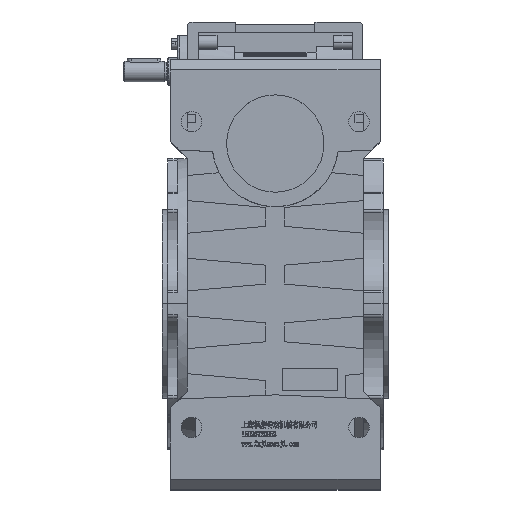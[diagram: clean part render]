
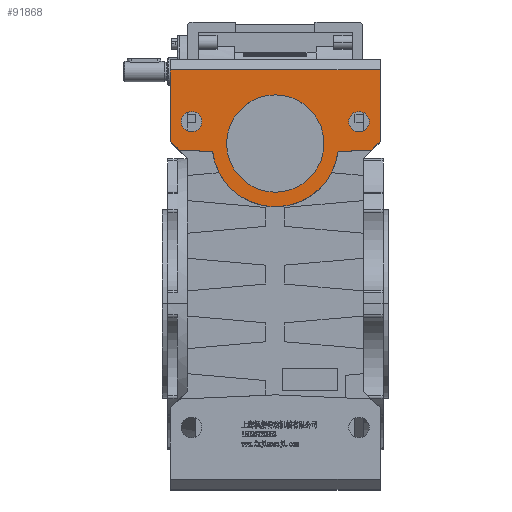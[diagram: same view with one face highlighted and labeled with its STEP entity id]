
A CAD part, top view. The second image highlights one B-rep face of the part: STEP entity #91868.
In plain terms, the highlighted planar face has unit normal (0, 0, 1).
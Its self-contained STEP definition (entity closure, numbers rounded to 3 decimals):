
#142 = EDGE_CURVE ( 'NONE', #106573, #7380, #43830, .T. ) ;
#746 = ORIENTED_EDGE ( 'NONE', *, *, #113656, .F. ) ;
#1903 = CARTESIAN_POINT ( 'NONE',  ( 72., 105.744, 127.5 ) ) ;
#2095 = CARTESIAN_POINT ( 'NONE',  ( 50.5, 125., 127.5 ) ) ;
#2280 = AXIS2_PLACEMENT_3D ( 'NONE', #114451, #18148, #43426 ) ;
#2544 = CARTESIAN_POINT ( 'NONE',  ( 65.977, 105.481, 127.5 ) ) ;
#3377 = CARTESIAN_POINT ( 'NONE',  ( -72., 160.5, 127.5 ) ) ;
#5695 = DIRECTION ( 'NONE',  ( 1., 0., 0. ) ) ;
#5966 = LINE ( 'NONE', #80326, #52025 ) ;
#6525 = VERTEX_POINT ( 'NONE', #21144 ) ;
#7380 = VERTEX_POINT ( 'NONE', #9173 ) ;
#9173 = CARTESIAN_POINT ( 'NONE',  ( 33.43, 110., 127.5 ) ) ;
#9327 = CIRCLE ( 'NONE', #47019, 33.43 ) ;
#10497 = VERTEX_POINT ( 'NONE', #3377 ) ;
#12062 = DIRECTION ( 'NONE',  ( 0., 0., 1. ) ) ;
#12653 = CARTESIAN_POINT ( 'NONE',  ( 0., 110., 127.5 ) ) ;
#12812 = DIRECTION ( 'NONE',  ( 1., 0., 0. ) ) ;
#13323 = VECTOR ( 'NONE', #88016, 1000. ) ;
#13722 = AXIS2_PLACEMENT_3D ( 'NONE', #92779, #12062, #12812 ) ;
#16062 = ORIENTED_EDGE ( 'NONE', *, *, #16521, .F. ) ;
#16521 = EDGE_CURVE ( 'NONE', #109951, #104701, #59376, .T. ) ;
#17574 = EDGE_LOOP ( 'NONE', ( #105149, #47129, #57345, #112567, #51677, #27553, #65180, #16062 ) ) ;
#18148 = DIRECTION ( 'NONE',  ( 0., 0., 1. ) ) ;
#19769 = FACE_BOUND ( 'NONE', #98621, .T. ) ;
#21144 = CARTESIAN_POINT ( 'NONE',  ( -72., 111.504, 127.5 ) ) ;
#22433 = DIRECTION ( 'NONE',  ( 1., 0., 0. ) ) ;
#22509 = DIRECTION ( 'NONE',  ( 0., 0., 1. ) ) ;
#24147 = DIRECTION ( 'NONE',  ( 0., -1., 0. ) ) ;
#27464 = EDGE_CURVE ( 'NONE', #31902, #39176, #48787, .T. ) ;
#27553 = ORIENTED_EDGE ( 'NONE', *, *, #115612, .T. ) ;
#29080 = CARTESIAN_POINT ( 'NONE',  ( 0., 110., 127.5 ) ) ;
#30376 = EDGE_CURVE ( 'NONE', #70948, #10497, #55168, .T. ) ;
#31016 = VERTEX_POINT ( 'NONE', #73050 ) ;
#31714 = CARTESIAN_POINT ( 'NONE',  ( 43.078, 104.481, 127.5 ) ) ;
#31902 = VERTEX_POINT ( 'NONE', #2544 ) ;
#33493 = AXIS2_PLACEMENT_3D ( 'NONE', #12653, #75081, #22433 ) ;
#34563 = VECTOR ( 'NONE', #24147, 1000. ) ;
#36147 = ORIENTED_EDGE ( 'NONE', *, *, #92918, .F. ) ;
#37972 = DIRECTION ( 'NONE',  ( 1., 0., 0. ) ) ;
#38675 = CARTESIAN_POINT ( 'NONE',  ( -43.078, 104.481, 127.5 ) ) ;
#39176 = VERTEX_POINT ( 'NONE', #31714 ) ;
#39629 = CARTESIAN_POINT ( 'NONE',  ( -65.977, 105.481, 127.5 ) ) ;
#41986 = DIRECTION ( 'NONE',  ( 0., 0., 1. ) ) ;
#43393 = EDGE_CURVE ( 'NONE', #109951, #39176, #45428, .T. ) ;
#43426 = DIRECTION ( 'NONE',  ( 1., 0., 0. ) ) ;
#43830 = CIRCLE ( 'NONE', #13722, 33.43 ) ;
#44765 = AXIS2_PLACEMENT_3D ( 'NONE', #62562, #107808, #107427 ) ;
#45428 = CIRCLE ( 'NONE', #33493, 43.43 ) ;
#46339 = EDGE_CURVE ( 'NONE', #104701, #6525, #69957, .T. ) ;
#46976 = CIRCLE ( 'NONE', #67378, 7. ) ;
#47002 = VECTOR ( 'NONE', #60164, 1000. ) ;
#47005 = EDGE_LOOP ( 'NONE', ( #36147, #58451 ) ) ;
#47019 = AXIS2_PLACEMENT_3D ( 'NONE', #29080, #82855, #37972 ) ;
#47129 = ORIENTED_EDGE ( 'NONE', *, *, #27464, .F. ) ;
#48787 = LINE ( 'NONE', #1903, #61314 ) ;
#49407 = VECTOR ( 'NONE', #58967, 1000. ) ;
#49789 = DIRECTION ( 'NONE',  ( 1., 0., 0. ) ) ;
#50163 = ORIENTED_EDGE ( 'NONE', *, *, #91651, .F. ) ;
#50549 = AXIS2_PLACEMENT_3D ( 'NONE', #111830, #41986, #49789 ) ;
#51677 = ORIENTED_EDGE ( 'NONE', *, *, #30376, .T. ) ;
#52025 = VECTOR ( 'NONE', #107231, 1000. ) ;
#54996 = CARTESIAN_POINT ( 'NONE',  ( 72., 160.5, 127.5 ) ) ;
#55081 = DIRECTION ( 'NONE',  ( -0.707, 0.707, 0. ) ) ;
#55168 = LINE ( 'NONE', #70907, #13323 ) ;
#57345 = ORIENTED_EDGE ( 'NONE', *, *, #84122, .F. ) ;
#57945 = CARTESIAN_POINT ( 'NONE',  ( 72., 111.504, 127.5 ) ) ;
#58269 = CIRCLE ( 'NONE', #50549, 7. ) ;
#58451 = ORIENTED_EDGE ( 'NONE', *, *, #79409, .F. ) ;
#58967 = DIRECTION ( 'NONE',  ( -0.707, -0.707, 0. ) ) ;
#59376 = LINE ( 'NONE', #96059, #47002 ) ;
#60164 = DIRECTION ( 'NONE',  ( -0.999, 0.044, 0. ) ) ;
#61314 = VECTOR ( 'NONE', #92014, 1000. ) ;
#61873 = DIRECTION ( 'NONE',  ( 0., 0., 1. ) ) ;
#62562 = CARTESIAN_POINT ( 'NONE',  ( 72., 167.5, 127.5 ) ) ;
#65180 = ORIENTED_EDGE ( 'NONE', *, *, #46339, .F. ) ;
#67378 = AXIS2_PLACEMENT_3D ( 'NONE', #78301, #61873, #104837 ) ;
#68034 = LINE ( 'NONE', #86899, #34563 ) ;
#68664 = CIRCLE ( 'NONE', #98648, 7. ) ;
#69957 = LINE ( 'NONE', #80834, #114554 ) ;
#70907 = CARTESIAN_POINT ( 'NONE',  ( 72., 160.5, 127.5 ) ) ;
#70948 = VERTEX_POINT ( 'NONE', #54996 ) ;
#73050 = CARTESIAN_POINT ( 'NONE',  ( -50.5, 125., 127.5 ) ) ;
#75081 = DIRECTION ( 'NONE',  ( 0., 0., 1. ) ) ;
#78301 = CARTESIAN_POINT ( 'NONE',  ( -57.5, 125., 127.5 ) ) ;
#79409 = EDGE_CURVE ( 'NONE', #115699, #86381, #58269, .T. ) ;
#79743 = PLANE ( 'NONE',  #44765 ) ;
#80326 = CARTESIAN_POINT ( 'NONE',  ( -72., 167.5, 127.5 ) ) ;
#80834 = CARTESIAN_POINT ( 'NONE',  ( -72., 111.504, 127.5 ) ) ;
#81077 = CARTESIAN_POINT ( 'NONE',  ( 64.5, 125., 127.5 ) ) ;
#81176 = FACE_BOUND ( 'NONE', #47005, .T. ) ;
#82645 = ORIENTED_EDGE ( 'NONE', *, *, #142, .F. ) ;
#82744 = CARTESIAN_POINT ( 'NONE',  ( -33.43, 110., 127.5 ) ) ;
#82855 = DIRECTION ( 'NONE',  ( 0., 0., 1. ) ) ;
#84122 = EDGE_CURVE ( 'NONE', #112936, #31902, #105302, .T. ) ;
#86381 = VERTEX_POINT ( 'NONE', #2095 ) ;
#86899 = CARTESIAN_POINT ( 'NONE',  ( 72., 167.5, 127.5 ) ) ;
#87243 = VERTEX_POINT ( 'NONE', #97410 ) ;
#88016 = DIRECTION ( 'NONE',  ( -1., 0., 0. ) ) ;
#91651 = EDGE_CURVE ( 'NONE', #87243, #31016, #68664, .T. ) ;
#91868 = ADVANCED_FACE ( 'NONE', ( #19769, #104907, #93698, #81176 ), #79743, .F. ) ;
#92014 = DIRECTION ( 'NONE',  ( -0.999, -0.044, 0. ) ) ;
#92779 = CARTESIAN_POINT ( 'NONE',  ( 0., 110., 127.5 ) ) ;
#92918 = EDGE_CURVE ( 'NONE', #86381, #115699, #101821, .T. ) ;
#93698 = FACE_BOUND ( 'NONE', #109576, .T. ) ;
#96059 = CARTESIAN_POINT ( 'NONE',  ( -72., 105.744, 127.5 ) ) ;
#96821 = ORIENTED_EDGE ( 'NONE', *, *, #103401, .F. ) ;
#97410 = CARTESIAN_POINT ( 'NONE',  ( -64.5, 125., 127.5 ) ) ;
#98621 = EDGE_LOOP ( 'NONE', ( #746, #82645 ) ) ;
#98648 = AXIS2_PLACEMENT_3D ( 'NONE', #102824, #22509, #5695 ) ;
#101821 = CIRCLE ( 'NONE', #2280, 7. ) ;
#101840 = EDGE_CURVE ( 'NONE', #70948, #112936, #68034, .T. ) ;
#102699 = CARTESIAN_POINT ( 'NONE',  ( 72., 111.504, 127.5 ) ) ;
#102824 = CARTESIAN_POINT ( 'NONE',  ( -57.5, 125., 127.5 ) ) ;
#103401 = EDGE_CURVE ( 'NONE', #31016, #87243, #46976, .T. ) ;
#104701 = VERTEX_POINT ( 'NONE', #39629 ) ;
#104837 = DIRECTION ( 'NONE',  ( 1., 0., 0. ) ) ;
#104907 = FACE_OUTER_BOUND ( 'NONE', #17574, .T. ) ;
#105149 = ORIENTED_EDGE ( 'NONE', *, *, #43393, .T. ) ;
#105302 = LINE ( 'NONE', #102699, #49407 ) ;
#106573 = VERTEX_POINT ( 'NONE', #82744 ) ;
#107231 = DIRECTION ( 'NONE',  ( 0., -1., 0. ) ) ;
#107427 = DIRECTION ( 'NONE',  ( 0., 1., 0. ) ) ;
#107808 = DIRECTION ( 'NONE',  ( 0., 0., -1. ) ) ;
#109576 = EDGE_LOOP ( 'NONE', ( #50163, #96821 ) ) ;
#109951 = VERTEX_POINT ( 'NONE', #38675 ) ;
#111830 = CARTESIAN_POINT ( 'NONE',  ( 57.5, 125., 127.5 ) ) ;
#112567 = ORIENTED_EDGE ( 'NONE', *, *, #101840, .F. ) ;
#112936 = VERTEX_POINT ( 'NONE', #57945 ) ;
#113656 = EDGE_CURVE ( 'NONE', #7380, #106573, #9327, .T. ) ;
#114451 = CARTESIAN_POINT ( 'NONE',  ( 57.5, 125., 127.5 ) ) ;
#114554 = VECTOR ( 'NONE', #55081, 1000. ) ;
#115612 = EDGE_CURVE ( 'NONE', #10497, #6525, #5966, .T. ) ;
#115699 = VERTEX_POINT ( 'NONE', #81077 ) ;
